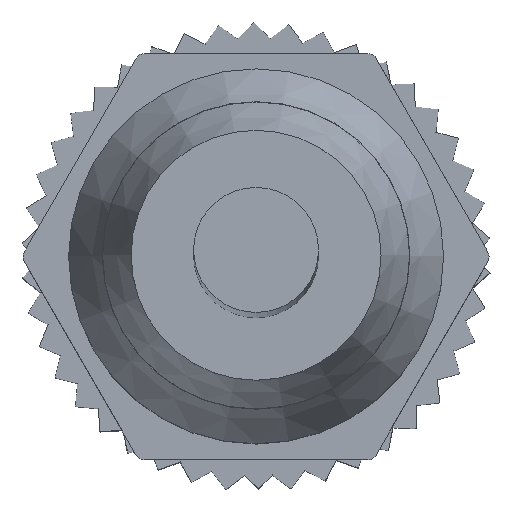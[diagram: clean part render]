
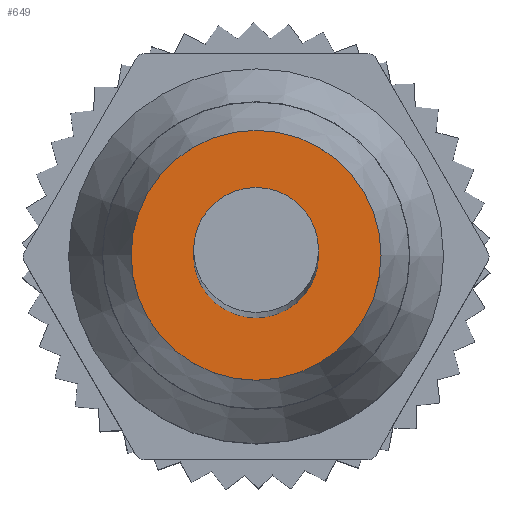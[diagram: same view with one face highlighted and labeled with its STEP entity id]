
A CAD part, top view. The second image highlights one B-rep face of the part: STEP entity #649.
In plain terms, the highlighted planar face has unit normal (0, 0, 1).
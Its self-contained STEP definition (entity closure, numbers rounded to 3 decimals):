
#649=ADVANCED_FACE('',(#2046,#2047),#972,.F.);
#972=PLANE('',#5635);
#2046=FACE_BOUND('',#2125,.T.);
#2047=FACE_BOUND('',#2126,.T.);
#2125=EDGE_LOOP('',(#2510));
#2126=EDGE_LOOP('',(#2511));
#2510=ORIENTED_EDGE('',*,*,#4577,.F.);
#2511=ORIENTED_EDGE('',*,*,#4578,.T.);
#4068=VERTEX_POINT('',#7875);
#4069=VERTEX_POINT('',#7878);
#4577=EDGE_CURVE('',#4068,#4068,#5359,.T.);
#4578=EDGE_CURVE('',#4069,#4069,#5360,.T.);
#5359=CIRCLE('',#5632,2.);
#5360=CIRCLE('',#5634,4.);
#5632=AXIS2_PLACEMENT_3D('',#7874,#6257,#6258);
#5634=AXIS2_PLACEMENT_3D('',#7877,#6261,#6262);
#5635=AXIS2_PLACEMENT_3D('',#7879,#6263,#6264);
#6257=DIRECTION('',(0.,0.,1.));
#6258=DIRECTION('',(1.,0.,0.));
#6261=DIRECTION('',(0.,0.,1.));
#6262=DIRECTION('',(1.,0.,0.));
#6263=DIRECTION('',(0.,0.,-1.));
#6264=DIRECTION('',(-1.,0.,0.));
#7874=CARTESIAN_POINT('',(0.,0.,38.));
#7875=CARTESIAN_POINT('',(2.,0.,38.));
#7877=CARTESIAN_POINT('',(0.,0.,38.));
#7878=CARTESIAN_POINT('',(4.,0.,38.));
#7879=CARTESIAN_POINT('',(-4.,0.,38.));
